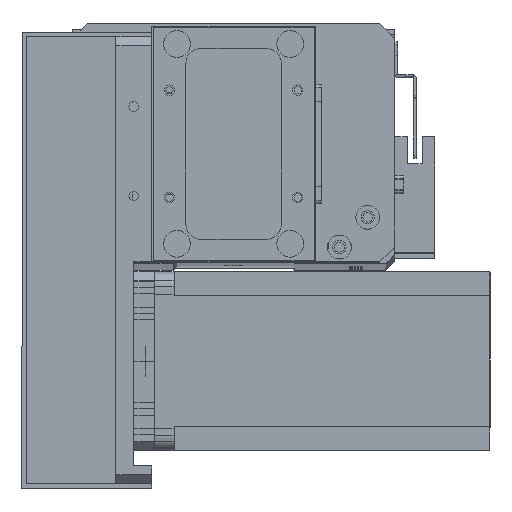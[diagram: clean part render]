
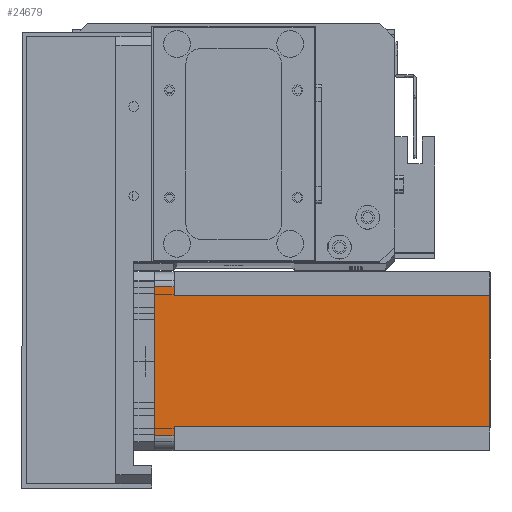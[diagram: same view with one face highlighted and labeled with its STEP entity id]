
A CAD part, top view. The second image highlights one B-rep face of the part: STEP entity #24679.
In plain terms, the highlighted planar face has unit normal (0, 0, 1) as drawn and (0, 1, 0) by its records, which use the part's own axes.
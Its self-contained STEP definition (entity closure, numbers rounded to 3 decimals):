
#584 = DIRECTION ( 'NONE',  ( -1., 0., 0. ) ) ;
#685 = VERTEX_POINT ( 'NONE', #10945 ) ;
#722 = EDGE_CURVE ( 'NONE', #20068, #28273, #7504, .T. ) ;
#1101 = CARTESIAN_POINT ( 'NONE',  ( 5., 60., 0. ) ) ;
#1369 = CARTESIAN_POINT ( 'NONE',  ( 8., 60., -6.5 ) ) ;
#1778 = ORIENTED_EDGE ( 'NONE', *, *, #23643, .T. ) ;
#1858 = AXIS2_PLACEMENT_3D ( 'NONE', #20357, #29614, #15832 ) ;
#2343 = EDGE_CURVE ( 'NONE', #18183, #28273, #10896, .T. ) ;
#2672 = VECTOR ( 'NONE', #19977, 1000. ) ;
#3667 = CARTESIAN_POINT ( 'NONE',  ( 5., 60., -6.5 ) ) ;
#4047 = FACE_OUTER_BOUND ( 'NONE', #4651, .T. ) ;
#4286 = LINE ( 'NONE', #26183, #10154 ) ;
#4651 = EDGE_LOOP ( 'NONE', ( #6862, #8684, #10257, #13028, #15515, #19661, #28161, #1778 ) ) ;
#5449 = CARTESIAN_POINT ( 'NONE',  ( 0., 60., 0. ) ) ;
#5760 = DIRECTION ( 'NONE',  ( 1., 0., 0. ) ) ;
#6492 = EDGE_CURVE ( 'NONE', #19518, #18486, #9585, .T. ) ;
#6862 = ORIENTED_EDGE ( 'NONE', *, *, #29645, .F. ) ;
#7293 = DIRECTION ( 'NONE',  ( 0., 0., 1. ) ) ;
#7504 = LINE ( 'NONE', #22199, #24213 ) ;
#7973 = DIRECTION ( 'NONE',  ( -1., 0., 0. ) ) ;
#8052 = CARTESIAN_POINT ( 'NONE',  ( 8., 60., -6.5 ) ) ;
#8684 = ORIENTED_EDGE ( 'NONE', *, *, #16679, .T. ) ;
#9198 = LINE ( 'NONE', #5449, #20414 ) ;
#9585 = LINE ( 'NONE', #11425, #22215 ) ;
#10154 = VECTOR ( 'NONE', #7293, 1000. ) ;
#10257 = ORIENTED_EDGE ( 'NONE', *, *, #6492, .F. ) ;
#10896 = LINE ( 'NONE', #20450, #2672 ) ;
#10945 = CARTESIAN_POINT ( 'NONE',  ( 55., 60., 0. ) ) ;
#11000 = CARTESIAN_POINT ( 'NONE',  ( 55., 60., -112.5 ) ) ;
#11425 = CARTESIAN_POINT ( 'NONE',  ( 52., 60., -6.5 ) ) ;
#12279 = VECTOR ( 'NONE', #21101, 1000. ) ;
#12501 = DIRECTION ( 'NONE',  ( 0., 0., -1. ) ) ;
#13028 = ORIENTED_EDGE ( 'NONE', *, *, #16977, .F. ) ;
#13383 = PLANE ( 'NONE',  #1858 ) ;
#15346 = EDGE_CURVE ( 'NONE', #20068, #15501, #28545, .T. ) ;
#15501 = VERTEX_POINT ( 'NONE', #3667 ) ;
#15515 = ORIENTED_EDGE ( 'NONE', *, *, #2343, .T. ) ;
#15832 = DIRECTION ( 'NONE',  ( 0., 0., 1. ) ) ;
#16058 = CARTESIAN_POINT ( 'NONE',  ( 8., 60., -112.5 ) ) ;
#16679 = EDGE_CURVE ( 'NONE', #685, #18486, #20599, .T. ) ;
#16977 = EDGE_CURVE ( 'NONE', #18183, #19518, #4286, .T. ) ;
#17629 = CARTESIAN_POINT ( 'NONE',  ( 52., 60., -112.5 ) ) ;
#18183 = VERTEX_POINT ( 'NONE', #17629 ) ;
#18486 = VERTEX_POINT ( 'NONE', #25588 ) ;
#18879 = CARTESIAN_POINT ( 'NONE',  ( 5., 60., -112.5 ) ) ;
#19518 = VERTEX_POINT ( 'NONE', #25524 ) ;
#19661 = ORIENTED_EDGE ( 'NONE', *, *, #722, .F. ) ;
#19901 = VECTOR ( 'NONE', #29696, 1000. ) ;
#19977 = DIRECTION ( 'NONE',  ( -1., 0., 0. ) ) ;
#20068 = VERTEX_POINT ( 'NONE', #1369 ) ;
#20357 = CARTESIAN_POINT ( 'NONE',  ( 0., 60., -112.5 ) ) ;
#20414 = VECTOR ( 'NONE', #7973, 1000. ) ;
#20450 = CARTESIAN_POINT ( 'NONE',  ( 0., 60., -112.5 ) ) ;
#20599 = LINE ( 'NONE', #11000, #19901 ) ;
#21101 = DIRECTION ( 'NONE',  ( 0., 0., 1. ) ) ;
#22199 = CARTESIAN_POINT ( 'NONE',  ( 8., 60., -112.5 ) ) ;
#22215 = VECTOR ( 'NONE', #5760, 1000. ) ;
#23643 = EDGE_CURVE ( 'NONE', #15501, #25918, #30124, .T. ) ;
#24213 = VECTOR ( 'NONE', #12501, 1000. ) ;
#24679 = ADVANCED_FACE ( 'NONE', ( #4047 ), #13383, .T. ) ;
#25524 = CARTESIAN_POINT ( 'NONE',  ( 52., 60., -6.5 ) ) ;
#25588 = CARTESIAN_POINT ( 'NONE',  ( 55., 60., -6.5 ) ) ;
#25918 = VERTEX_POINT ( 'NONE', #1101 ) ;
#26183 = CARTESIAN_POINT ( 'NONE',  ( 52., 60., -112.5 ) ) ;
#27805 = VECTOR ( 'NONE', #584, 1000. ) ;
#28161 = ORIENTED_EDGE ( 'NONE', *, *, #15346, .T. ) ;
#28273 = VERTEX_POINT ( 'NONE', #16058 ) ;
#28545 = LINE ( 'NONE', #8052, #27805 ) ;
#29614 = DIRECTION ( 'NONE',  ( 0., 1., 0. ) ) ;
#29645 = EDGE_CURVE ( 'NONE', #685, #25918, #9198, .T. ) ;
#29696 = DIRECTION ( 'NONE',  ( 0., 0., -1. ) ) ;
#30124 = LINE ( 'NONE', #18879, #12279 ) ;
